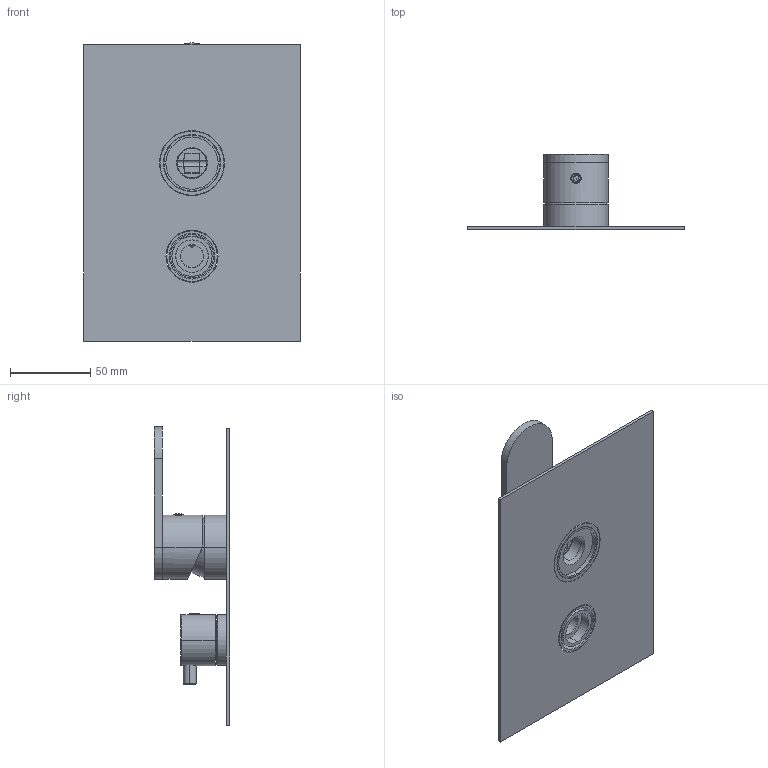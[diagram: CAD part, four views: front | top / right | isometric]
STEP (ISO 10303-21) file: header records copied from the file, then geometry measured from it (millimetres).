
FILE_DESCRIPTION((''),'2;1');
FILE_NAME('7954121_SW0001','2026-10-05T16:52:23',('carloff'),(''),'CREO PARAMETRIC BY PTC INC, 2025443','CREO PARAMETRIC BY PTC INC, 2025443','');
FILE_SCHEMA(('CONFIG_CONTROL_DESIGN'));
Length unit declared in the file: millimetre
Products named in the file (1): 7954121_SW0001
Bounding box: 135 x 47 x 186 mm (x, y, z)
Volume: 114050.5 mm3; surface area: 85825.1 mm2
Topology: 6 solids, 6 shells, 574 faces, 1591 edges, 1042 vertices
Faces by surface type: plane 231, cylinder 201, torus 64, cone 57, bspline 11, sphere 10
Entity records: 25558 total; most frequent: CARTESIAN_POINT 10681, ORIENTED_EDGE 3170, DIRECTION 3111, EDGE_CURVE 1585, AXIS2_PLACEMENT_3D 1163, VERTEX_POINT 1042, VECTOR 785, LINE 785
